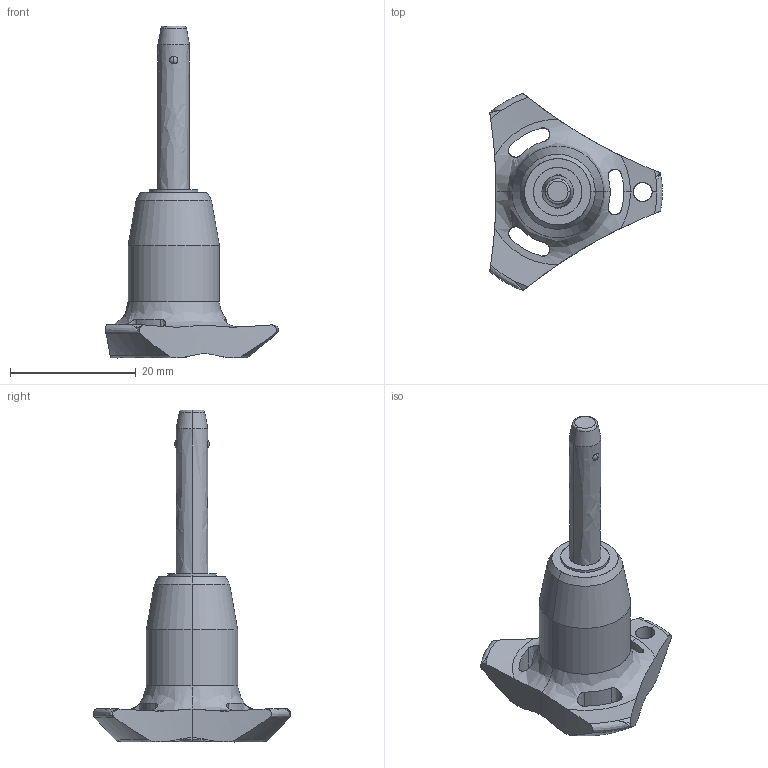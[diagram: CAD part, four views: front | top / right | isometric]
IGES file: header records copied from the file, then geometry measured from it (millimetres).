
Start section: SolidWorks IGES file using analytic representation for surfaces
Global section: file name: C:\Users\ianosborn\Desktop\QR1714_v2\QR1714_v2_20251112_IGES\QR1714.M05-020-S.igs; native system: SolidWorks 2019; preprocessor: SolidWorks 2019; author: IanOsborn; date: 251112.095315; units: millimetre
Bounding box: 27.4 x 31.31 x 52.7 mm (x, y, z)
Surface area: 2822.5 mm2 (no closed solid volume)
Topology: 0 solids, 0 shells, 66 faces, 1227 edges, 1208 vertices
Faces by surface type: revolution 50, bspline 16
